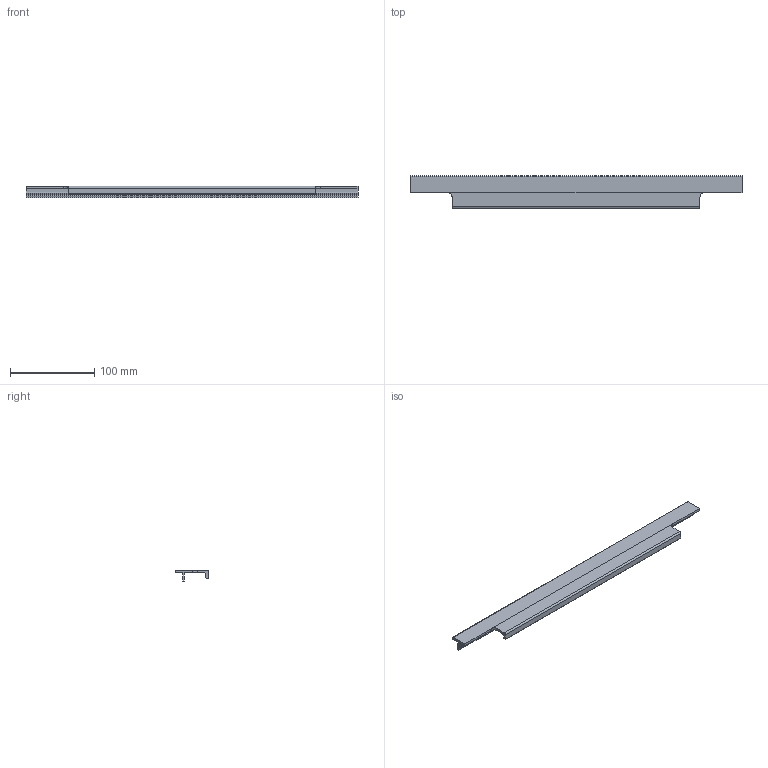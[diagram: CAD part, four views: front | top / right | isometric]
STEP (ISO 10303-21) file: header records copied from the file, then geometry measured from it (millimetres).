
FILE_DESCRIPTION( ( '' ), '1' );
FILE_NAME( 'C:/Documents and Settings/Nikhil/Desktop/Nik/Done/9105819.stp', '2013-10-23T08:19:19', ( '' ), ( '' ), ' ', ' ', ' ' );
FILE_SCHEMA( ( 'automotive_design' ) );
Length unit declared in the file: millimetre
Products named in the file (1): 1
Bounding box: 395 x 39 x 14 mm (x, y, z)
Volume: 54204.3 mm3; surface area: 41845.3 mm2
Topology: 1 solids, 1 shells, 40 faces, 112 edges, 74 vertices
Faces by surface type: plane 30, cylinder 10
Entity records: 2554 total; most frequent: STYLED_ITEM 227, PRESENTATION_STYLE_ASSIGNMENT 227, CARTESIAN_POINT 227, COLOUR_RGB 227, ORIENTED_EDGE 224, DIRECTION 214, EDGE_CURVE 112, CURVE_STYLE 112
